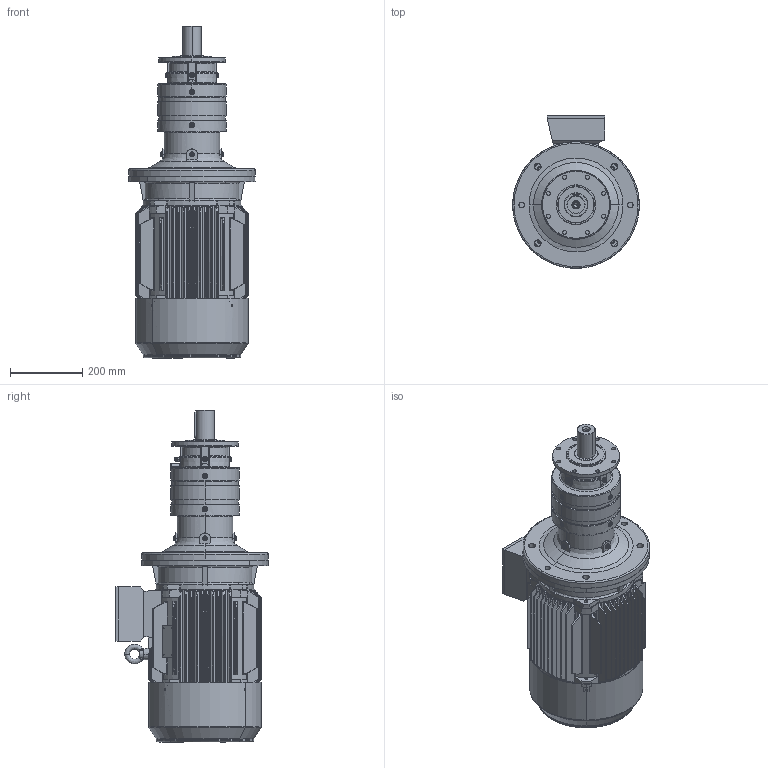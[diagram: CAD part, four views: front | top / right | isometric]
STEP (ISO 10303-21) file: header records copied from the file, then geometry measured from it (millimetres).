
FILE_DESCRIPTION (( 'STEP AP203' ), '1' );
FILE_NAME ('PVL-1102L-HS160M-4.STEP', '2019-05-27T08:38:51', ( '' ), ( '' ), 'SwSTEP 2.0', 'SolidWorks 2012', '' );
FILE_SCHEMA (( 'CONFIG_CONTROL_DESIGN' ));
Products named in the file (18): PVL-1102L-HS160M-4; Y2-160_shaft; M3-160M-FF-B5; M3-HS160M-FF-B5; +ª+§ªiY2-160ñ»ª­_-++ñ; Y2-160-180ñ»ª­®+_-++ñ; Y2-160M+À+¿(B5)_-++ñ; Y2-160ñ»ª­+¿_-++ñ; Eyebolts GB_GB_FASTENER_SCREWS_FRS M12; Y2-160-4Ý¾6Ý¾8-ª+---®+_-++ñ; +¦i-MN2-160_-++ñ; Y2-160-2ª¥--®+_-++ñ; EK1102L; PNL_1102L_0_0_A16_B5_ML7A_FL1A_0_0_0_0_0_0_0_0_0_0_0_M1; FL1A; ML7A; 11160B5; P11
Assembly tree (17 placements, depth 5):
  PVL-1102L-HS160M-4
    PNL_1102L_0_0_A16_B5_ML7A_FL1A_0_0_0_0_0_0_0_0_0_0_0_M1
      P11
      11160B5
      ML7A
      EK1102L
      FL1A
    M3-HS160M-FF-B5
      M3-160M-FF-B5
        Eyebolts GB_GB_FASTENER_SCREWS_FRS M12
        Y2-160-4Ý¾6Ý¾8-ª+---®+_-++ñ
        +¦i-MN2-160_-++ñ
        Y2-160-2ª¥--®+_-++ñ
        +ª+§ªiY2-160ñ»ª­_-++ñ
          Y2-160-180ñ»ª­®+_-++ñ
          Y2-160ñ»ª­+¿_-++ñ
        Y2-160M+À+¿(B5)_-++ñ
        Y2-160_shaft
Bounding box: 350 x 422 x 918 mm (x, y, z)
Volume: 16828863.7 mm3; surface area: 2872836.9 mm2
Topology: 17 solids, 21 shells, 2225 faces, 5700 edges, 3649 vertices
Faces by surface type: cylinder 893, plane 727, bspline 306, cone 194, torus 65, sphere 40
Entity records: 117112 total; most frequent: CARTESIAN_POINT 64987, ORIENTED_EDGE 11300, DIRECTION 9074, EDGE_CURVE 5650, VERTEX_POINT 3634, AXIS2_PLACEMENT_3D 3461, EDGE_LOOP 2530, FACE_OUTER_BOUND 2225
